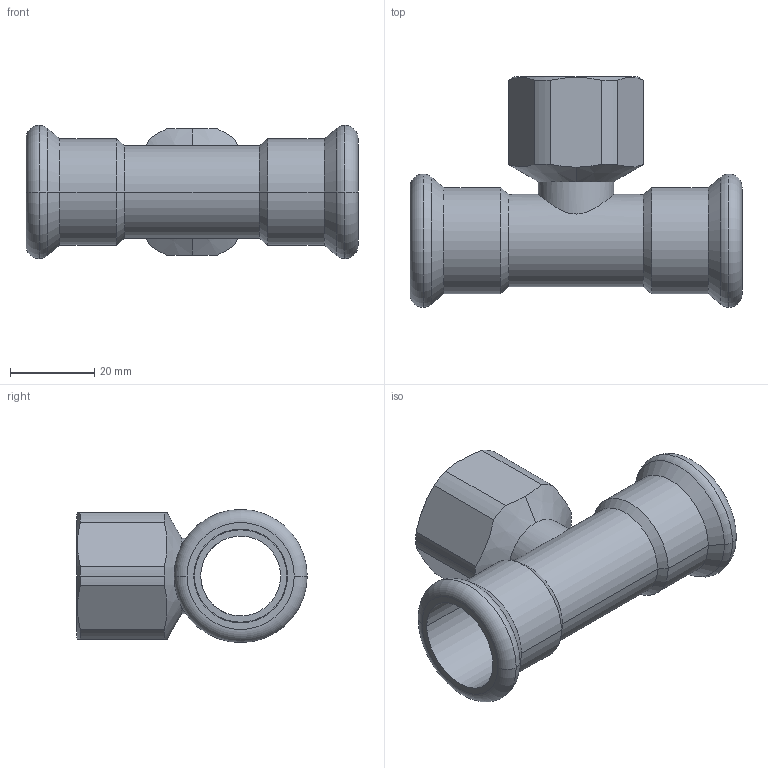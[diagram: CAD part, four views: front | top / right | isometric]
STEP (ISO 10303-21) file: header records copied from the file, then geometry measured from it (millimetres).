
FILE_DESCRIPTION(('CoCreate Modeling STEP Export'),'2;1');
FILE_NAME('C1418 22xRp3-4x22.stp','2014-11-12T13:36:47',(''),(''),'CoCreate Modeling STEP processor for AP214 (Solid Model)','CoCreate Modeling 17.00A 17-Jun-2010 (C) Parametric Technology GmbH','');
FILE_SCHEMA(('AUTOMOTIVE_DESIGN { 1 0 10303 214 1 1 1 1 }'));
Length unit declared in the file: millimetre
Products named in the file (2): C1418_22xRp3-4x22
Assembly tree (1 placements, depth 2):
  C1418_22xRp3-4x22
    C1418_22xRp3-4x22
Bounding box: 79 x 54.85 x 31.7 mm (x, y, z)
Volume: 19061.5 mm3; surface area: 17611.8 mm2
Topology: 1 solids, 1 shells, 64 faces, 153 edges, 95 vertices
Faces by surface type: cylinder 30, plane 14, cone 12, torus 8
Entity records: 3277 total; most frequent: CARTESIAN_POINT 1932, ORIENTED_EDGE 306, DIRECTION 226, EDGE_CURVE 153, VERTEX_POINT 95, AXIS2_PLACEMENT_3D 89, EDGE_LOOP 72, FACE_OUTER_BOUND 64
